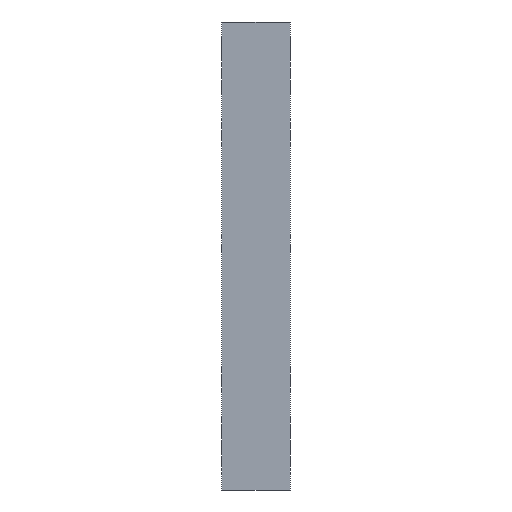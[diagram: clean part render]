
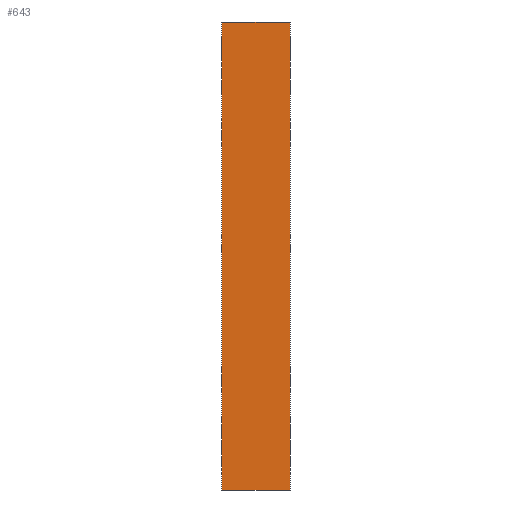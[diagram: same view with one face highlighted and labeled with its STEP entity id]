
A CAD part, left-side view. The second image highlights one B-rep face of the part: STEP entity #643.
In plain terms, the highlighted planar face has unit normal (-1, 0, 0).
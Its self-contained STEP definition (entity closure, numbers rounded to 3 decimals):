
#27 = CARTESIAN_POINT ( 'NONE',  ( -123., 36., 123. ) ) ;
#33 = PLANE ( 'NONE',  #672 ) ;
#43 = ORIENTED_EDGE ( 'NONE', *, *, #771, .T. ) ;
#63 = ORIENTED_EDGE ( 'NONE', *, *, #227, .T. ) ;
#70 = ORIENTED_EDGE ( 'NONE', *, *, #530, .F. ) ;
#77 = VECTOR ( 'NONE', #665, 1000. ) ;
#88 = VECTOR ( 'NONE', #377, 1000. ) ;
#91 = DIRECTION ( 'NONE',  ( 0., 0., -1. ) ) ;
#98 = LINE ( 'NONE', #603, #88 ) ;
#121 = LINE ( 'NONE', #164, #77 ) ;
#164 = CARTESIAN_POINT ( 'NONE',  ( -123., 36., -123. ) ) ;
#174 = CARTESIAN_POINT ( 'NONE',  ( -123., 0., -123. ) ) ;
#216 = VECTOR ( 'NONE', #320, 1000. ) ;
#227 = EDGE_CURVE ( 'NONE', #556, #772, #121, .T. ) ;
#248 = EDGE_CURVE ( 'NONE', #556, #644, #521, .T. ) ;
#319 = ORIENTED_EDGE ( 'NONE', *, *, #248, .F. ) ;
#320 = DIRECTION ( 'NONE',  ( 0., 0., 1. ) ) ;
#330 = VECTOR ( 'NONE', #336, 1000. ) ;
#336 = DIRECTION ( 'NONE',  ( 0., -1., 0. ) ) ;
#377 = DIRECTION ( 'NONE',  ( 0., 0., 1. ) ) ;
#455 = VERTEX_POINT ( 'NONE', #623 ) ;
#478 = DIRECTION ( 'NONE',  ( 1., 0., 0. ) ) ;
#481 = EDGE_LOOP ( 'NONE', ( #43, #70, #319, #63 ) ) ;
#521 = LINE ( 'NONE', #547, #216 ) ;
#530 = EDGE_CURVE ( 'NONE', #644, #455, #664, .T. ) ;
#547 = CARTESIAN_POINT ( 'NONE',  ( -123., 36., 123. ) ) ;
#556 = VERTEX_POINT ( 'NONE', #751 ) ;
#560 = CARTESIAN_POINT ( 'NONE',  ( -123., 36., 123. ) ) ;
#588 = CARTESIAN_POINT ( 'NONE',  ( -123., 36., 123. ) ) ;
#603 = CARTESIAN_POINT ( 'NONE',  ( -123., 0., 123. ) ) ;
#623 = CARTESIAN_POINT ( 'NONE',  ( -123., 0., 123. ) ) ;
#643 = ADVANCED_FACE ( 'NONE', ( #652 ), #33, .F. ) ;
#644 = VERTEX_POINT ( 'NONE', #588 ) ;
#652 = FACE_OUTER_BOUND ( 'NONE', #481, .T. ) ;
#664 = LINE ( 'NONE', #560, #330 ) ;
#665 = DIRECTION ( 'NONE',  ( 0., -1., 0. ) ) ;
#672 = AXIS2_PLACEMENT_3D ( 'NONE', #27, #478, #91 ) ;
#751 = CARTESIAN_POINT ( 'NONE',  ( -123., 36., -123. ) ) ;
#771 = EDGE_CURVE ( 'NONE', #772, #455, #98, .T. ) ;
#772 = VERTEX_POINT ( 'NONE', #174 ) ;
